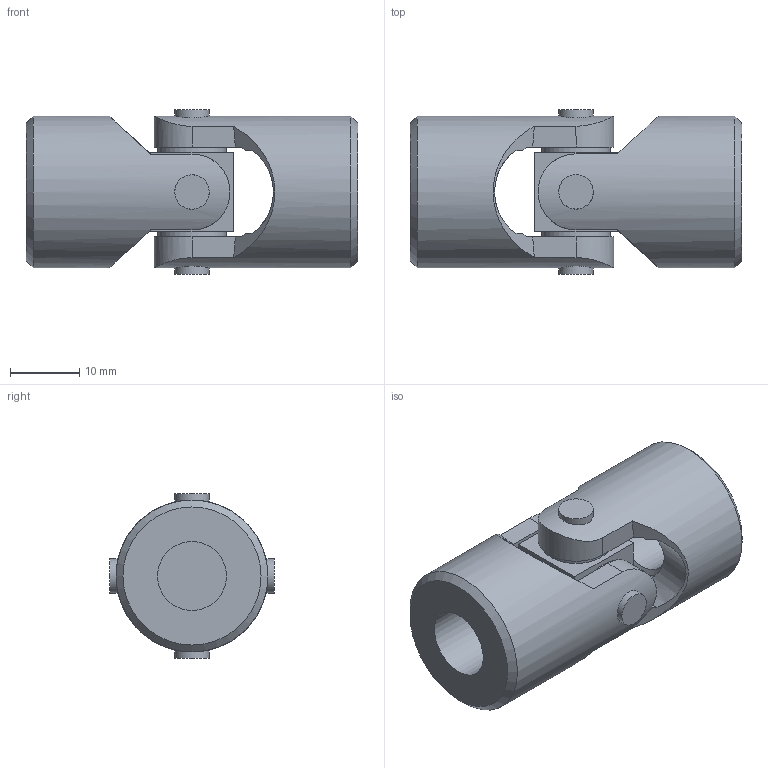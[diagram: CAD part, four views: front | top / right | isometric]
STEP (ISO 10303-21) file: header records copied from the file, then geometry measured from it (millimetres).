
FILE_DESCRIPTION(/* description */ ('EXTENSIBLE TRANSIMISSIONS Series G DIN 808 -2-'),/* implementation_level */ '2;1');
FILE_NAME(/* name */ '\\SRV2016\societa\Stefano\Disegni 3D\0Catalogo 3D\13Singoli X\Ø22_03X_SX0S1000.stp',/* time_stamp */ '2023-05-12T15:51:50+02:00',/* author */ ('acquisti'),/* organization */ ('MARIOFERRI'),/* preprocessor_version */ 'ST-DEVELOPER v15.6',/* originating_system */ 'Autodesk Inventor 2015',/* authorisation */ '');
FILE_SCHEMA (('AUTOMOTIVE_DESIGN { 1 0 10303 214 3 1 1 }'));
Length unit declared in the file: millimetre
Products named in the file (3): 03X SFE; 03X MOS; Ø22_03X_SX0S1000
Assembly tree (3 placements, depth 2):
  Ø22_03X_SX0S1000
    03X SFE
    03X MOS  x2
Bounding box: 48 x 23.8 x 23.8 mm (x, y, z)
Volume: 12569 mm3; surface area: 6443.3 mm2
Topology: 3 solids, 3 shells, 64 faces, 160 edges, 108 vertices
Faces by surface type: plane 32, cylinder 18, cone 12, torus 2
Full cylindrical faces by diameter (mm): 5 x4, 10 x6, 11.5 x2, 22 x2
Entity records: 1297 total; most frequent: CARTESIAN_POINT 424, DIRECTION 168, ORIENTED_EDGE 152, EDGE_CURVE 76, AXIS2_PLACEMENT_3D 72, EDGE_LOOP 58, VERTEX_POINT 58, FACE_OUTER_BOUND 39
